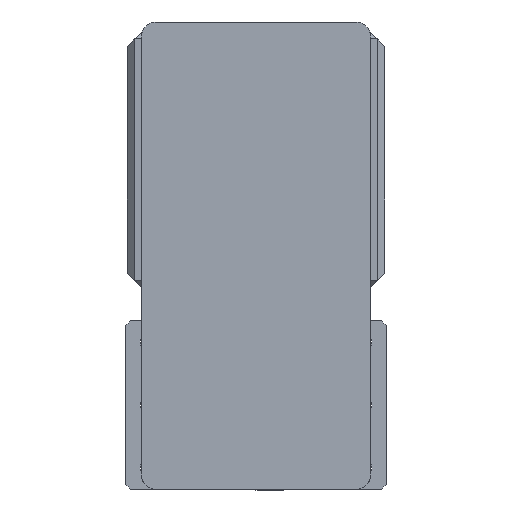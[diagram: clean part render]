
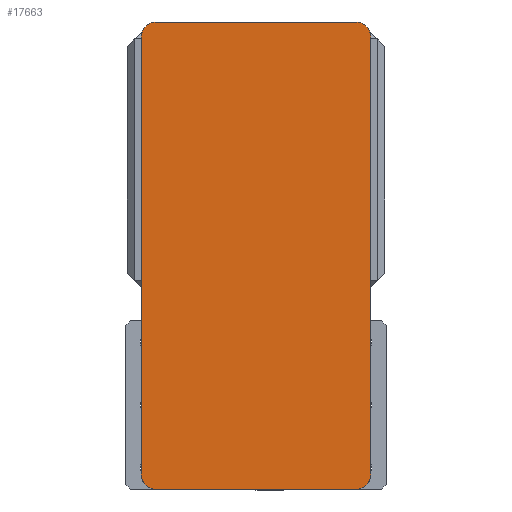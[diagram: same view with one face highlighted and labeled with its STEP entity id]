
A CAD part, left-side view. The second image highlights one B-rep face of the part: STEP entity #17663.
In plain terms, the highlighted planar face has unit normal (-1, 0, 0) as drawn and (0, 0, 1) by its records, which use the part's own axes.
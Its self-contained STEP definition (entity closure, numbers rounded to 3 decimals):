
#50 = CARTESIAN_POINT ( 'NONE',  ( -65., 142.5, 105. ) ) ;
#78 = ORIENTED_EDGE ( 'NONE', *, *, #13449, .T. ) ;
#345 = CARTESIAN_POINT ( 'NONE',  ( 65., 152.5, 105. ) ) ;
#566 = CARTESIAN_POINT ( 'NONE',  ( -65., -152.5, 105. ) ) ;
#1071 = AXIS2_PLACEMENT_3D ( 'NONE', #15312, #12251, #2911 ) ;
#1322 = DIRECTION ( 'NONE',  ( 1., 0., 0. ) ) ;
#1427 = VERTEX_POINT ( 'NONE', #12415 ) ;
#1643 = DIRECTION ( 'NONE',  ( 1., 0., 0. ) ) ;
#2911 = DIRECTION ( 'NONE',  ( 1., 0., 0. ) ) ;
#3672 = DIRECTION ( 'NONE',  ( 0., -1., 0. ) ) ;
#3764 = CARTESIAN_POINT ( 'NONE',  ( -65., -142.5, 105. ) ) ;
#4457 = AXIS2_PLACEMENT_3D ( 'NONE', #3764, #14671, #5351 ) ;
#4514 = VERTEX_POINT ( 'NONE', #7365 ) ;
#5105 = EDGE_CURVE ( 'NONE', #4514, #7935, #13095, .T. ) ;
#5156 = EDGE_CURVE ( 'NONE', #1427, #15221, #17750, .T. ) ;
#5351 = DIRECTION ( 'NONE',  ( 1., 0., 0. ) ) ;
#5439 = VERTEX_POINT ( 'NONE', #13591 ) ;
#5595 = AXIS2_PLACEMENT_3D ( 'NONE', #20020, #10672, #1322 ) ;
#6234 = CARTESIAN_POINT ( 'NONE',  ( -75., 152.5, 105. ) ) ;
#6274 = ORIENTED_EDGE ( 'NONE', *, *, #15420, .T. ) ;
#7128 = CARTESIAN_POINT ( 'NONE',  ( -75., -152.5, 105. ) ) ;
#7365 = CARTESIAN_POINT ( 'NONE',  ( 75., -142.5, 105. ) ) ;
#7916 = DIRECTION ( 'NONE',  ( 0., 0., 1. ) ) ;
#7935 = VERTEX_POINT ( 'NONE', #18378 ) ;
#8357 = DIRECTION ( 'NONE',  ( 0., 1., 0. ) ) ;
#8671 = AXIS2_PLACEMENT_3D ( 'NONE', #50, #10983, #1643 ) ;
#8943 = VECTOR ( 'NONE', #8357, 1000. ) ;
#9131 = VERTEX_POINT ( 'NONE', #345 ) ;
#9510 = AXIS2_PLACEMENT_3D ( 'NONE', #17257, #7916, #18814 ) ;
#9683 = EDGE_CURVE ( 'NONE', #9131, #5439, #11210, .T. ) ;
#10672 = DIRECTION ( 'NONE',  ( 0., 0., 1. ) ) ;
#10983 = DIRECTION ( 'NONE',  ( 0., 0., 1. ) ) ;
#11210 = LINE ( 'NONE', #6234, #19007 ) ;
#11301 = ORIENTED_EDGE ( 'NONE', *, *, #5105, .T. ) ;
#11618 = VECTOR ( 'NONE', #19582, 1000. ) ;
#12104 = LINE ( 'NONE', #7128, #11618 ) ;
#12227 = CARTESIAN_POINT ( 'NONE',  ( -75., 142.5, 105. ) ) ;
#12251 = DIRECTION ( 'NONE',  ( 0., 0., 1. ) ) ;
#12415 = CARTESIAN_POINT ( 'NONE',  ( -75., -142.5, 105. ) ) ;
#12926 = ORIENTED_EDGE ( 'NONE', *, *, #18809, .T. ) ;
#13023 = FACE_OUTER_BOUND ( 'NONE', #14957, .T. ) ;
#13095 = LINE ( 'NONE', #14548, #8943 ) ;
#13449 = EDGE_CURVE ( 'NONE', #18307, #1427, #14312, .T. ) ;
#13498 = CIRCLE ( 'NONE', #5595, 10. ) ;
#13591 = CARTESIAN_POINT ( 'NONE',  ( -65., 152.5, 105. ) ) ;
#13815 = VECTOR ( 'NONE', #3672, 1000. ) ;
#14312 = LINE ( 'NONE', #19232, #13815 ) ;
#14544 = VERTEX_POINT ( 'NONE', #18133 ) ;
#14548 = CARTESIAN_POINT ( 'NONE',  ( 75., 152.5, 105. ) ) ;
#14671 = DIRECTION ( 'NONE',  ( 0., 0., 1. ) ) ;
#14957 = EDGE_LOOP ( 'NONE', ( #6274, #17687, #11301, #15606, #16906, #12926, #78, #15210 ) ) ;
#15210 = ORIENTED_EDGE ( 'NONE', *, *, #5156, .T. ) ;
#15221 = VERTEX_POINT ( 'NONE', #566 ) ;
#15312 = CARTESIAN_POINT ( 'NONE',  ( 0., 0., 105. ) ) ;
#15420 = EDGE_CURVE ( 'NONE', #15221, #14544, #12104, .T. ) ;
#15606 = ORIENTED_EDGE ( 'NONE', *, *, #17652, .T. ) ;
#16198 = CIRCLE ( 'NONE', #9510, 10. ) ;
#16390 = CIRCLE ( 'NONE', #8671, 10. ) ;
#16906 = ORIENTED_EDGE ( 'NONE', *, *, #9683, .T. ) ;
#16988 = EDGE_CURVE ( 'NONE', #14544, #4514, #16198, .T. ) ;
#17134 = DIRECTION ( 'NONE',  ( -1., 0., 0. ) ) ;
#17257 = CARTESIAN_POINT ( 'NONE',  ( 65., -142.5, 105. ) ) ;
#17652 = EDGE_CURVE ( 'NONE', #7935, #9131, #13498, .T. ) ;
#17663 = ADVANCED_FACE ( 'NONE', ( #13023 ), #18460, .T. ) ;
#17687 = ORIENTED_EDGE ( 'NONE', *, *, #16988, .T. ) ;
#17750 = CIRCLE ( 'NONE', #4457, 10. ) ;
#18133 = CARTESIAN_POINT ( 'NONE',  ( 65., -152.5, 105. ) ) ;
#18307 = VERTEX_POINT ( 'NONE', #12227 ) ;
#18378 = CARTESIAN_POINT ( 'NONE',  ( 75., 142.5, 105. ) ) ;
#18460 = PLANE ( 'NONE',  #1071 ) ;
#18809 = EDGE_CURVE ( 'NONE', #5439, #18307, #16390, .T. ) ;
#18814 = DIRECTION ( 'NONE',  ( 1., 0., 0. ) ) ;
#19007 = VECTOR ( 'NONE', #17134, 1000. ) ;
#19232 = CARTESIAN_POINT ( 'NONE',  ( -75., 152.5, 105. ) ) ;
#19582 = DIRECTION ( 'NONE',  ( 1., 0., 0. ) ) ;
#20020 = CARTESIAN_POINT ( 'NONE',  ( 65., 142.5, 105. ) ) ;
